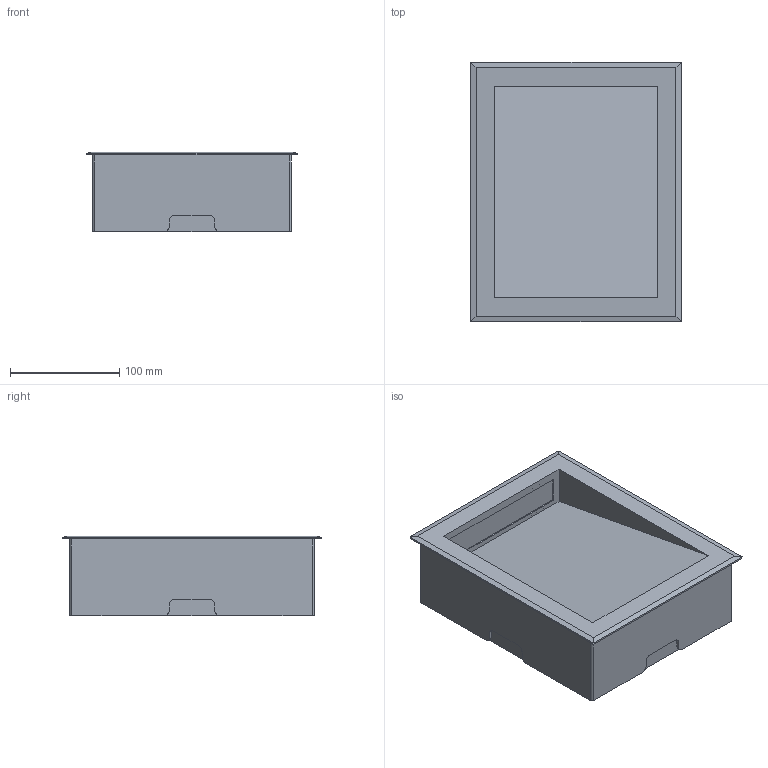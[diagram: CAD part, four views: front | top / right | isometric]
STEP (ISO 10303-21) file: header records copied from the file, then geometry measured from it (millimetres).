
FILE_DESCRIPTION(/* description */ (''),/* implementation_level */ '2;1');
FILE_NAME(/* name */ 'C:\Users\FrancoSartori\Documents\FARO\01_En Proceso\000_SOUN\03_Publicación\70900.stp',/* time_stamp */ '2021-07-28T09:12:02+02:00',/* author */ ('FrancoSartori'),/* organization */ (''),/* preprocessor_version */ 'ST-DEVELOPER v18.1',/* originating_system */ 'AutoCAD Mechanical',/* authorisation */ '');
FILE_SCHEMA (('AUTOMOTIVE_DESIGN { 1 0 10303 214 3 1 1 }'));
Length unit declared in the file: millimetre
Products named in the file (2): Product; 70900_70901 - SOUN-417025-_3D_
Assembly tree (1 placements, depth 2):
  Product
    70900_70901 - SOUN-417025-_3D_
Bounding box: 193.4 x 238.4 x 73 mm (x, y, z)
Volume: 9959.1 mm3; surface area: 177806.3 mm2
Topology: 1 solids, 2 shells, 75 faces, 213 edges, 142 vertices
Faces by surface type: plane 55, cylinder 20
Entity records: 2527 total; most frequent: CARTESIAN_POINT 513, ORIENTED_EDGE 406, DIRECTION 397, EDGE_CURVE 213, LINE 161, VECTOR 161, VERTEX_POINT 142, AXIS2_PLACEMENT_3D 118
